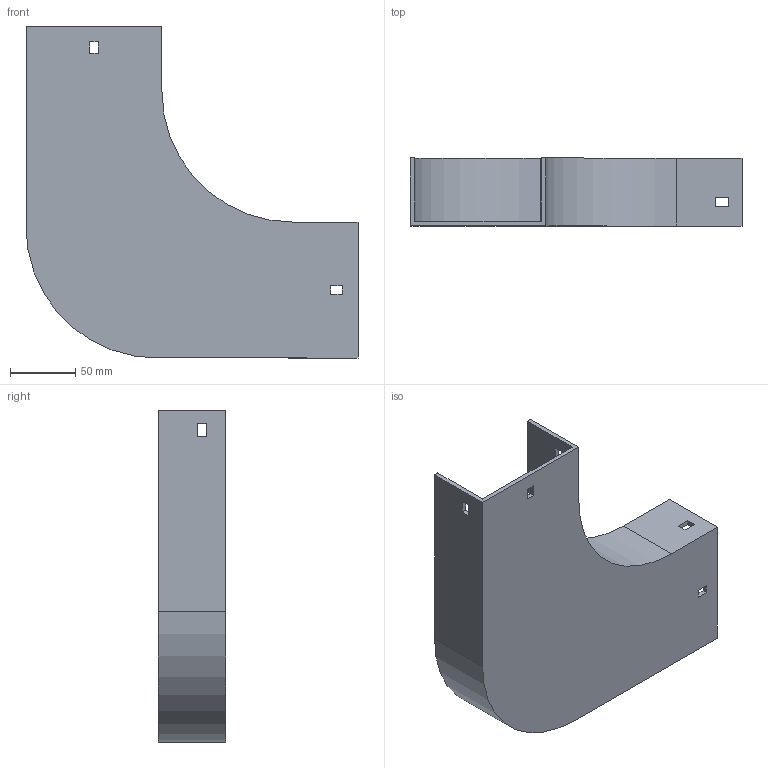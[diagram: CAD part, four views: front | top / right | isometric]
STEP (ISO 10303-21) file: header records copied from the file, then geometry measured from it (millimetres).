
FILE_DESCRIPTION (( 'STEP AP214' ), '1' );
FILE_NAME ('10B1B100.step', '2025-02-21T09:40:27', ( '' ), ( '' ), 'SwSTEP 2.0', 'SolidWorks 2023', '' );
FILE_SCHEMA (( 'AUTOMOTIVE_DESIGN' ));
Length unit declared in the file: millimetre
Products named in the file (1): 10B1B100
Bounding box: 254 x 52 x 254 mm (x, y, z)
Volume: 268253 mm3; surface area: 157915 mm2
Topology: 1 solids, 1 shells, 42 faces, 120 edges, 80 vertices
Faces by surface type: plane 38, cylinder 4
Entity records: 1399 total; most frequent: CARTESIAN_POINT 243, ORIENTED_EDGE 240, DIRECTION 214, EDGE_CURVE 120, LINE 112, VECTOR 112, VERTEX_POINT 80, EDGE_LOOP 54
